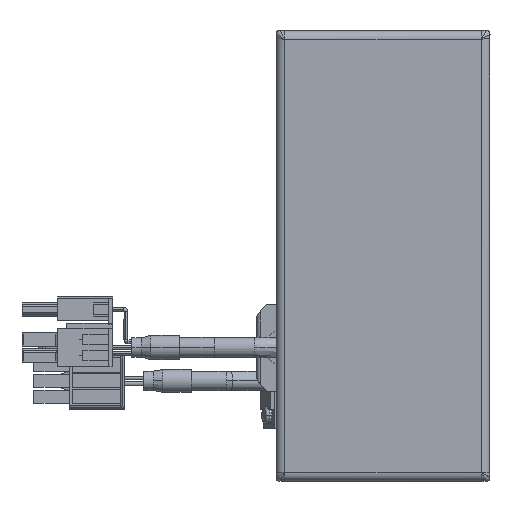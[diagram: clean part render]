
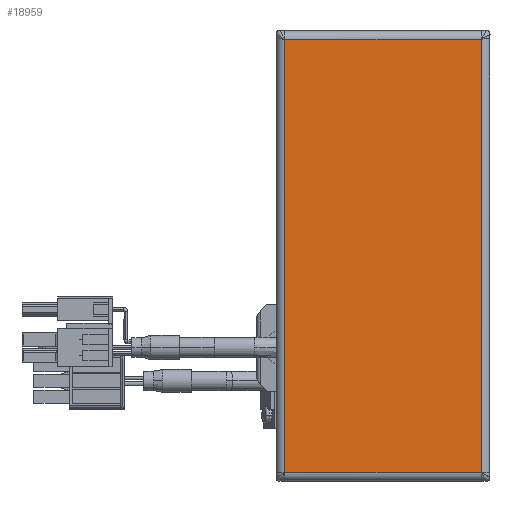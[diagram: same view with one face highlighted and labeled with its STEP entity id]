
A CAD part, top view. The second image highlights one B-rep face of the part: STEP entity #18959.
In plain terms, the highlighted planar face has unit normal (0, 0, 1) as drawn and (0, 0, -1) by its records, which use the part's own axes.
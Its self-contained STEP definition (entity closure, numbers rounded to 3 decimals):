
#1078 = ORIENTED_EDGE ( 'NONE', *, *, #14065, .T. ) ;
#4477 = VERTEX_POINT ( 'NONE', #34221 ) ;
#5633 = CARTESIAN_POINT ( 'NONE',  ( -56.793, 25.763, -1.5 ) ) ;
#5924 = CARTESIAN_POINT ( 'NONE',  ( 56.763, 25.763, -1.5 ) ) ;
#7250 = VECTOR ( 'NONE', #17400, 1000. ) ;
#8338 = CARTESIAN_POINT ( 'NONE',  ( 56.763, 25.793, -1.5 ) ) ;
#8892 = ORIENTED_EDGE ( 'NONE', *, *, #10911, .T. ) ;
#9964 = VERTEX_POINT ( 'NONE', #36668 ) ;
#10911 = EDGE_CURVE ( 'NONE', #28309, #37196, #28872, .T. ) ;
#12323 = ORIENTED_EDGE ( 'NONE', *, *, #51758, .T. ) ;
#13272 = FACE_OUTER_BOUND ( 'NONE', #37848, .T. ) ;
#14065 = EDGE_CURVE ( 'NONE', #9964, #28309, #15978, .T. ) ;
#15978 = LINE ( 'NONE', #5633, #39095 ) ;
#16066 = CARTESIAN_POINT ( 'NONE',  ( -56.763, -25.793, -1.5 ) ) ;
#17400 = DIRECTION ( 'NONE',  ( 0., -1., 0. ) ) ;
#18959 = ADVANCED_FACE ( 'NONE', ( #13272 ), #21939, .T. ) ;
#19018 = VECTOR ( 'NONE', #59965, 1000. ) ;
#21939 = PLANE ( 'NONE',  #26978 ) ;
#24154 = DIRECTION ( 'NONE',  ( 1., 0., 0. ) ) ;
#26607 = DIRECTION ( 'NONE',  ( -1., 0., 0. ) ) ;
#26978 = AXIS2_PLACEMENT_3D ( 'NONE', #40329, #54230, #26607 ) ;
#28309 = VERTEX_POINT ( 'NONE', #5924 ) ;
#28397 = VECTOR ( 'NONE', #48385, 1000. ) ;
#28872 = LINE ( 'NONE', #8338, #7250 ) ;
#32256 = CARTESIAN_POINT ( 'NONE',  ( 56.793, -25.763, -1.5 ) ) ;
#34221 = CARTESIAN_POINT ( 'NONE',  ( -56.763, -25.763, -1.5 ) ) ;
#36190 = EDGE_CURVE ( 'NONE', #37196, #4477, #54364, .T. ) ;
#36668 = CARTESIAN_POINT ( 'NONE',  ( -56.763, 25.763, -1.5 ) ) ;
#37196 = VERTEX_POINT ( 'NONE', #47992 ) ;
#37848 = EDGE_LOOP ( 'NONE', ( #8892, #57584, #12323, #1078 ) ) ;
#39095 = VECTOR ( 'NONE', #24154, 1000. ) ;
#40329 = CARTESIAN_POINT ( 'NONE',  ( 0., 0., -1.5 ) ) ;
#47992 = CARTESIAN_POINT ( 'NONE',  ( 56.763, -25.763, -1.5 ) ) ;
#48385 = DIRECTION ( 'NONE',  ( 0., 1., 0. ) ) ;
#51758 = EDGE_CURVE ( 'NONE', #4477, #9964, #52928, .T. ) ;
#52928 = LINE ( 'NONE', #16066, #28397 ) ;
#54230 = DIRECTION ( 'NONE',  ( 0., 0., -1. ) ) ;
#54364 = LINE ( 'NONE', #32256, #19018 ) ;
#57584 = ORIENTED_EDGE ( 'NONE', *, *, #36190, .T. ) ;
#59965 = DIRECTION ( 'NONE',  ( -1., 0., 0. ) ) ;
